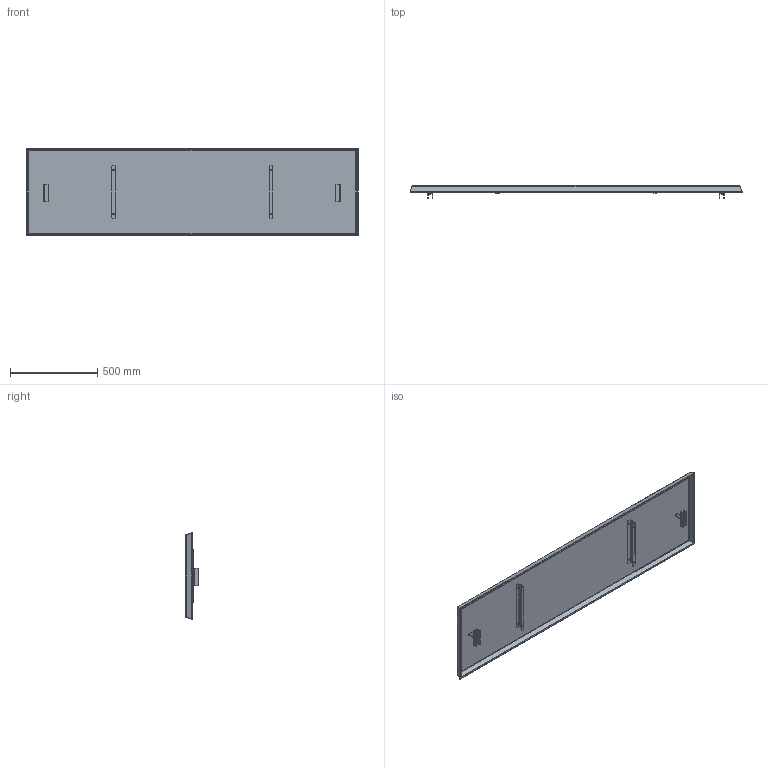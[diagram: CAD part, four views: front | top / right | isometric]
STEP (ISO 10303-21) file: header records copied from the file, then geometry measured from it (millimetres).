
FILE_DESCRIPTION (( 'STEP AP203' ), '1' );
FILE_NAME ('EMTT180040.STEP', '2024-10-22T12:37:23', ( '' ), ( '' ), 'SwSTEP 2.0', 'SolidWorks 2022', '' );
FILE_SCHEMA (( 'CONFIG_CONTROL_DESIGN' ));
Length unit declared in the file: millimetre
Products named in the file (1): EMTT180040
Bounding box: 1899.11 x 69.35 x 495.11 mm (x, y, z)
Volume: 1600736.2 mm3; surface area: 2325488.6 mm2
Topology: 1 solids, 1 shells, 144 faces, 364 edges, 236 vertices
Faces by surface type: plane 88, cylinder 48, cone 8
Entity records: 4381 total; most frequent: CARTESIAN_POINT 781, ORIENTED_EDGE 728, DIRECTION 722, EDGE_CURVE 364, LINE 272, VECTOR 272, VERTEX_POINT 236, AXIS2_PLACEMENT_3D 225
